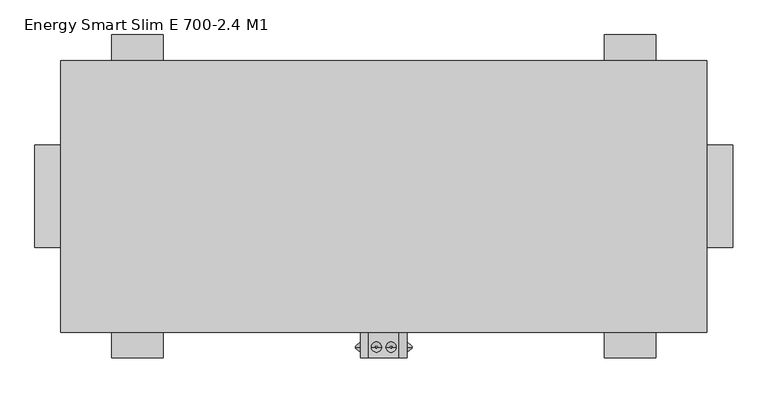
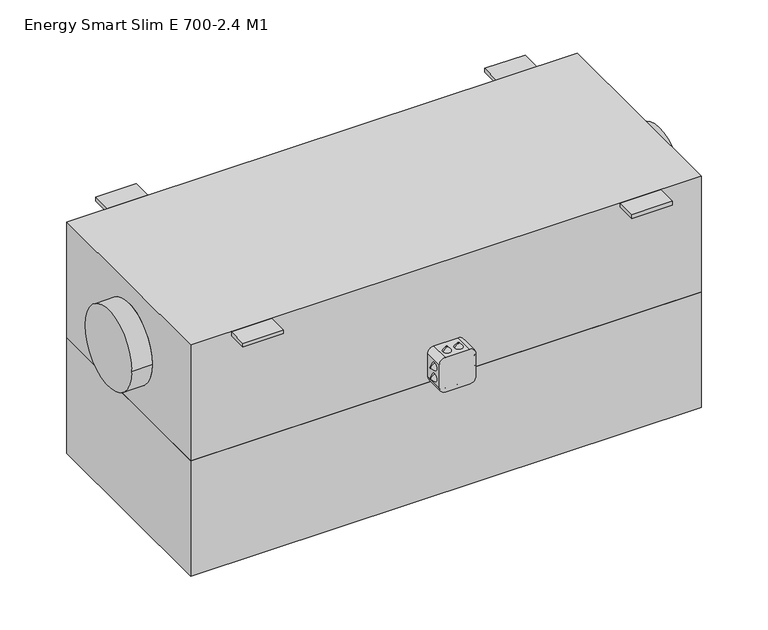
"""IFC4 building model written with IfcOpenShell, lengths in millimetres: proxy geometry, ADSK_КПВУ_ENERGY SMART SLIM E_круглая : Energy Smart Slim E 700-2.4 M1."""

import ifcopenshell
import ifcopenshell.guid

model = None  # the IFC model being written
_history = None  # IfcOwnerHistory: only IFC2X3 demands one
_inside = {}  # id of a spatial element -> (the spatial element, [elements in it])
_under = {}  # id of a project, library or spatial element -> (it, [spatial elements below it])
_declared = {}  # id of a project -> (the project, [libraries it declares])
_typed = {}  # id of a type object -> (the type object, [elements of that type])
_made_of = {}  # id of a material, layer set ... -> (it, [elements and type objects made of it])


def new_model(schema):
    """Start an empty IFC model of exactly this schema.

    Asked for "IFC4X3", IfcOpenShell would pick the latest addendum, in which some entities
    have other attributes; the version numbers below select the first issue.
    IFC2X3 requires an IfcOwnerHistory on every rooted entity: one is made here for all.
    """
    global model, _history
    if schema == "IFC4X3":
        model = ifcopenshell.file(schema_version=(4, 3, 0, 0))
    else:
        model = ifcopenshell.file(schema=schema)
    _inside.clear()
    _under.clear()
    _declared.clear()
    _typed.clear()
    _made_of.clear()
    _history = None
    if model.schema == "IFC2X3":
        org = make("IfcOrganization", Name="unknown")
        user = make(
            "IfcPersonAndOrganization",
            ThePerson=make("IfcPerson", FamilyName="unknown"),
            TheOrganization=org,
        )
        app = make(
            "IfcApplication",
            ApplicationDeveloper=org,
            Version="unknown",
            ApplicationFullName="unknown",
            ApplicationIdentifier="unknown",
        )
        _history = make(
            "IfcOwnerHistory",
            OwningUser=user,
            OwningApplication=app,
            ChangeAction="ADDED",
            CreationDate=0,
        )
    return model


def make(cls, **values):
    """One entity of the class cls with the attributes given. An attribute that is None is left unset."""
    return model.create_entity(
        cls, **{name: value for name, value in values.items() if value is not None}
    )


def rooted(cls, **values):
    """An entity with a GlobalId (a new one), such as an element, a storey or a relation."""
    return make(cls, GlobalId=ifcopenshell.guid.new(), OwnerHistory=_history, **values)


def si_unit(unit_type, name, prefix=None):
    """IfcSIUnit, for example si_unit("LENGTHUNIT", "METRE", prefix="MILLI")."""
    return make("IfcSIUnit", UnitType=unit_type, Prefix=prefix, Name=name)


def assignment(units):
    """IfcUnitAssignment: the units of a project."""
    return None if units is None else make("IfcUnitAssignment", Units=units)


def point(xyz):
    """IfcCartesianPoint."""
    return None if xyz is None else make("IfcCartesianPoint", Coordinates=xyz)


def direction(xyz):
    """IfcDirection."""
    return None if xyz is None else make("IfcDirection", DirectionRatios=xyz)


def frame(location, z_axis=None, x_axis=None):
    """IfcAxis2Placement3D, a coordinate frame: its origin and axes. An axis left out is left unset."""
    return make(
        "IfcAxis2Placement3D",
        Location=point(location),
        Axis=direction(z_axis),
        RefDirection=direction(x_axis),
    )


def frame_2d(location, x_axis=None):
    """IfcAxis2Placement2D, a coordinate frame in the plane: its origin and x axis."""
    return make(
        "IfcAxis2Placement2D", Location=point(location), RefDirection=direction(x_axis)
    )


def origin():
    """The frame at (0, 0, 0) with its axes left unset."""
    return frame((0.0, 0.0, 0.0))


def place(relative_to, where):
    """IfcLocalPlacement: puts the frame where relative to a parent placement (None: the world)."""
    return make(
        "IfcLocalPlacement", PlacementRelTo=relative_to, RelativePlacement=where
    )


def context(
    kind, dimensions, precision=None, world=None, true_north=None, identifier=None
):
    """IfcGeometricRepresentationContext, for example the 3D "Model" context."""
    return make(
        "IfcGeometricRepresentationContext",
        ContextIdentifier=identifier,
        ContextType=kind,
        CoordinateSpaceDimension=dimensions,
        Precision=precision,
        WorldCoordinateSystem=world,
        TrueNorth=true_north,
    )


def project(units=None, contexts=None):
    """IfcProject with its units and contexts."""
    return rooted(
        "IfcProject",
        Name="project",
        RepresentationContexts=contexts,
        UnitsInContext=assignment(units),
    )


def spatial(cls, under=None, at=None, **own):
    """A site, building, storey or space (cls), placed at a placement, below another one or the project."""
    s = rooted(cls, ObjectPlacement=at, **own)
    if under is not None:
        _under.setdefault(under.id(), (under, []))[1].append(s)
    return s


def polyline(points):
    """IfcPolyline through the points."""
    return make("IfcPolyline", Points=[point(p) for p in points])


def circle_curve(where, radius):
    """IfcCircle in the frame where."""
    return make("IfcCircle", Position=where, Radius=radius)


def trimmed(basis, trim1, trim2, sense, master):
    """IfcTrimmedCurve: the piece of a basis curve between two trims."""
    return make(
        "IfcTrimmedCurve",
        BasisCurve=basis,
        Trim1=trim1,
        Trim2=trim2,
        SenseAgreement=sense,
        MasterRepresentation=master,
    )


def segment(curve, same_sense, transition):
    """IfcCompositeCurveSegment."""
    return make(
        "IfcCompositeCurveSegment",
        Transition=transition,
        SameSense=same_sense,
        ParentCurve=curve,
    )


def composite_curve(segments, self_intersect=None):
    """IfcCompositeCurve: segments joined end to end."""
    return make("IfcCompositeCurve", Segments=segments, SelfIntersect=self_intersect)


def outline(outer, holes=None, kind="AREA"):
    """IfcArbitraryClosedProfileDef: a profile drawn as a closed curve; with holes, ...WithVoids."""
    if holes is None:
        return make("IfcArbitraryClosedProfileDef", ProfileType=kind, OuterCurve=outer)
    return make(
        "IfcArbitraryProfileDefWithVoids",
        ProfileType=kind,
        OuterCurve=outer,
        InnerCurves=holes,
    )


def extrude(swept, where, along, depth):
    """IfcExtrudedAreaSolid: the profile swept, set in the frame where, extruded along a direction by depth."""
    return make(
        "IfcExtrudedAreaSolid",
        SweptArea=swept,
        Position=where,
        ExtrudedDirection=direction(along),
        Depth=depth,
    )


def shape(context_of_items, identifier, shape_type, items):
    """IfcShapeRepresentation: the items that make up one representation, for example the "Body"."""
    return make(
        "IfcShapeRepresentation",
        ContextOfItems=context_of_items,
        RepresentationIdentifier=identifier,
        RepresentationType=shape_type,
        Items=items,
    )


def source(mapping_origin, context_of_items, identifier, shape_type, items):
    """IfcRepresentationMap: a shape defined once, which mapped items show again and again."""
    return make(
        "IfcRepresentationMap",
        MappingOrigin=mapping_origin,
        MappedRepresentation=shape(context_of_items, identifier, shape_type, items),
    )


def transform(
    local_origin,
    x_axis=None,
    y_axis=None,
    z_axis=None,
    scale=None,
    scale2=None,
    scale3=None,
    uniform=True,
):
    """IfcCartesianTransformationOperator3D, or its non-uniform kind. x_axis, y_axis, z_axis: its Axis1, 2, 3."""
    if uniform:
        return make(
            "IfcCartesianTransformationOperator3D",
            Axis1=direction(x_axis),
            Axis2=direction(y_axis),
            LocalOrigin=point(local_origin),
            Scale=scale,
            Axis3=direction(z_axis),
        )
    return make(
        "IfcCartesianTransformationOperator3DnonUniform",
        Axis1=direction(x_axis),
        Axis2=direction(y_axis),
        LocalOrigin=point(local_origin),
        Scale=scale,
        Axis3=direction(z_axis),
        Scale2=scale2,
        Scale3=scale3,
    )


def mapped(mapping_source, mapping_target):
    """IfcMappedItem: shows the shape of a source again, moved by a transform."""
    return make(
        "IfcMappedItem", MappingSource=mapping_source, MappingTarget=mapping_target
    )


def made_of(thing, what):
    """Note that an element or type object is made of a material, layer set ...; save() writes the relation."""
    if what is not None:
        _made_of.setdefault(what.id(), (what, []))[1].append(thing)
    return thing


def element(
    cls,
    number,
    at=None,
    inside=None,
    cuts=None,
    type_object=None,
    material=None,
    context=None,
    identifier="Body",
    shape_type=None,
    held_by="IfcProductDefinitionShape",
    body=None,
    shapes=None,
    **own,
):
    """One element of the class cls, such as IfcWall. Its Tag is "e" and its number.

    at: its placement. inside: the storey or other place that contains it. cuts: it is an
    opening in that element (IfcRelVoidsElement). A single representation is given by context,
    identifier, shape_type and body (its items); several are given by shapes. held_by: the class
    of the entity that holds the representations. save() writes the other relations.
    """
    e = rooted(cls, Tag="e%d" % number, ObjectPlacement=at, **own)
    if body is not None:
        shapes = [shape(context, identifier, shape_type, body)]
    if shapes is not None:
        e.Representation = make(held_by, Representations=shapes)
    if inside is not None:
        _inside.setdefault(inside.id(), (inside, []))[1].append(e)
    if cuts is not None:
        rooted(
            "IfcRelVoidsElement", RelatingBuildingElement=cuts, RelatedOpeningElement=e
        )
    if type_object is not None:
        _typed.setdefault(type_object.id(), (type_object, []))[1].append(e)
    return made_of(e, material)


def aggregate(whole, parts):
    """IfcRelAggregates: a whole, such as a stair, and the parts it consists of."""
    return rooted("IfcRelAggregates", RelatingObject=whole, RelatedObjects=parts)


def save(model, path):
    """Write the relations noted so far, then the file.

    IfcRelAggregates (storeys below a building ...), IfcRelContainedInSpatialStructure (elements
    in a storey), IfcRelDefinesByType, IfcRelAssociatesMaterial and IfcRelDeclares: one each for
    every whole, place, type object, material and project.
    """
    for whole, parts in _under.values():
        aggregate(whole, parts)
    for where, things in _inside.values():
        rooted(
            "IfcRelContainedInSpatialStructure",
            RelatedElements=things,
            RelatingStructure=where,
        )
    for kind, things in _typed.values():
        rooted("IfcRelDefinesByType", RelatedObjects=things, RelatingType=kind)
    for what, things in _made_of.values():
        rooted("IfcRelAssociatesMaterial", RelatedObjects=things, RelatingMaterial=what)
    for by, libraries in _declared.values():
        rooted("IfcRelDeclares", RelatingContext=by, RelatedDefinitions=libraries)
    model.write(path)


def plane_surface(at):
    """IfcPlane: the flat surface through the origin of the frame at, square to its z axis."""
    return make("IfcPlane", Position=at)


def cylinder_surface(at, radius):
    """IfcCylindricalSurface: all points at the distance radius from the z axis of the frame at."""
    return make("IfcCylindricalSurface", Position=at, Radius=radius)


def revolved_surface(curve, axis_point, axis_direction):
    """IfcSurfaceOfRevolution: the curve turned about the line through axis_point along axis_direction."""
    return make(
        "IfcSurfaceOfRevolution",
        SweptCurve=make("IfcArbitraryOpenProfileDef", ProfileType="CURVE", Curve=curve),
        AxisPosition=make("IfcAxis1Placement", Location=point(axis_point), Axis=direction(axis_direction)),
    )


def advanced_brep(points, edges, surfaces, faces):
    """IfcAdvancedBrep: a solid bounded by faces that lie on surfaces and meet in shared edges.

    An edge is (start, end): straight between two places in points (the first is 0);
    or (start, end, curve); or (start, end, curve, False) where it runs against its curve.
    A face is (place in surfaces, loops), or (place, loops, False) where it looks against
    its surface's normal. A loop lists edges by number (the first is 1), with a minus sign
    where the edge is run from its end to its start. The first loop is the outer one.
    """
    corners = [point(p) for p in points]
    vertices = [make("IfcVertexPoint", VertexGeometry=c) for c in corners]
    made = []
    for start, end, *more in edges:
        made.append(
            make(
                "IfcEdgeCurve",
                EdgeStart=vertices[start],
                EdgeEnd=vertices[end],
                EdgeGeometry=more[0] if more else make("IfcPolyline", Points=[corners[start], corners[end]]),
                SameSense=more[1] if len(more) > 1 else True,
            )
        )
    hull = []
    for where, loops, *sense in faces:
        bounds = []
        for j, loop in enumerate(loops):
            ring = [make("IfcOrientedEdge", EdgeElement=made[abs(k) - 1], Orientation=k > 0) for k in loop]
            bounds.append(
                make(
                    "IfcFaceOuterBound" if j == 0 else "IfcFaceBound",
                    Bound=make("IfcEdgeLoop", EdgeList=ring),
                    Orientation=True,
                )
            )
        hull.append(make("IfcAdvancedFace", Bounds=bounds, FaceSurface=surfaces[where], SameSense=sense[0] if sense else True))
    return make("IfcAdvancedBrep", Outer=make("IfcClosedShell", CfsFaces=hull))


def energy_smart_slim_e_700_2_4_m1_97cd10b6(model_context):
    return source(origin(), model_context, "Body", "SolidModel", [
        advanced_brep(
        [(211.0, -293.9311792, -122.7092609), (211.0, -293.9311792, -118.7092609), (221.0, -293.9311792, -130.7092609), (221.0, -293.9311792, -110.7092609)],
        [
            (0, 1, circle_curve(frame((211.0, -293.9311792, -120.7092609), z_axis=(-1.0, 0.0, 0.0), x_axis=(0.0, 0.0, -1.0)), 2.0)),
            (1, 0, circle_curve(frame((211.0, -293.9311792, -120.7092609), z_axis=(-1.0, 0.0, 0.0), x_axis=(0.0, 0.0, 1.0)), 2.0)),
            (2, 3, circle_curve(frame((221.0, -293.9311792, -120.7092609), z_axis=(1.0, 0.0, 0.0), x_axis=(0.0, 0.0, 1.0)), 10.0)),
            (3, 2, circle_curve(frame((221.0, -293.9311792, -120.7092609), z_axis=(1.0, 0.0, 0.0), x_axis=(0.0, 0.0, -1.0)), 10.0)),
            (2, 0),
            (1, 3),
        ],
        [
            plane_surface(frame((211.0, -293.9311792, -120.7092609), z_axis=(-1.0, 0.0, 0.0), x_axis=(0.0, -1.0, 0.0))),
            plane_surface(frame((221.0, -293.9311792, -120.7092609), z_axis=(1.0, 0.0, 0.0), x_axis=(0.0, -1.0, 0.0))),
            revolved_surface(polyline([(211.0, -293.9311792, -118.7092609), (221.0, -293.9311792, -110.7092609)]), (208.5, -293.9311792, -120.7092609), (1.0, 0.0, 0.0)),
            revolved_surface(polyline([(211.0, -293.9311792, -122.7092609), (221.0, -293.9311792, -130.7092609)]), (208.5, -293.9311792, -120.7092609), (1.0, 0.0, 0.0)),
        ],
        [
            (0, [[1, 2]]),
            (1, [[3, 4]]),
            (2, [[-3, 5, -2, 6]]),
            (3, [[-4, -6, -1, -5]]),
        ],
    ),
        advanced_brep(
        [(211.0, -293.9311792, -90.0531164), (211.0, -293.9311792, -94.0531164), (221.0, -293.9311792, -82.0531164), (221.0, -293.9311792, -102.0531164)],
        [
            (0, 1, circle_curve(frame((211.0, -293.9311792, -92.0531164), z_axis=(-1.0, 0.0, 0.0), x_axis=(0.0, 0.0, 1.0)), 2.0)),
            (1, 0, circle_curve(frame((211.0, -293.9311792, -92.0531164), z_axis=(-1.0, 0.0, 0.0), x_axis=(0.0, 0.0, -1.0)), 2.0)),
            (2, 3, circle_curve(frame((221.0, -293.9311792, -92.0531164), z_axis=(1.0, 0.0, 0.0), x_axis=(0.0, 0.0, -1.0)), 10.0)),
            (3, 2, circle_curve(frame((221.0, -293.9311792, -92.0531164), z_axis=(1.0, 0.0, 0.0), x_axis=(0.0, 0.0, 1.0)), 10.0)),
            (3, 1),
            (0, 2),
        ],
        [
            plane_surface(frame((211.0, -293.9311792, -92.0531164), z_axis=(-1.0, 0.0, 0.0), x_axis=(0.0, 1.0, 0.0))),
            plane_surface(frame((221.0, -293.9311792, -92.0531164), z_axis=(1.0, 0.0, 0.0), x_axis=(0.0, 1.0, 0.0))),
            revolved_surface(polyline([(211.0, -293.9311792, -90.0531164), (221.0, -293.9311792, -82.0531164)]), (208.5, -293.9311792, -92.0531164), (1.0, 0.0, 0.0)),
            revolved_surface(polyline([(211.0, -293.9311792, -94.0531164), (221.0, -293.9311792, -102.0531164)]), (208.5, -293.9311792, -92.0531164), (1.0, 0.0, 0.0)),
        ],
        [
            (0, [[1, 2]]),
            (1, [[3, 4]]),
            (2, [[-4, 5, -1, 6]]),
            (3, [[-3, -6, -2, -5]]),
        ],
    ),
        advanced_brep(
        [(321.0, -293.9311792, -122.7092609), (321.0, -293.9311792, -118.7092609), (311.0, -293.9311792, -130.7092609), (311.0, -293.9311792, -110.7092609)],
        [
            (0, 1, circle_curve(frame((321.0, -293.9311792, -120.7092609), z_axis=(1.0, 0.0, 0.0), x_axis=(0.0, 0.0, -1.0)), 2.0)),
            (1, 0, circle_curve(frame((321.0, -293.9311792, -120.7092609), z_axis=(1.0, 0.0, 0.0), x_axis=(0.0, 0.0, 1.0)), 2.0)),
            (2, 3, circle_curve(frame((311.0, -293.9311792, -120.7092609), z_axis=(-1.0, 0.0, 0.0), x_axis=(0.0, 0.0, 1.0)), 10.0)),
            (3, 2, circle_curve(frame((311.0, -293.9311792, -120.7092609), z_axis=(-1.0, 0.0, 0.0), x_axis=(0.0, 0.0, -1.0)), 10.0)),
            (3, 1),
            (0, 2),
        ],
        [
            plane_surface(frame((321.0, -293.9311792, -120.7092609), z_axis=(1.0, 0.0, 0.0), x_axis=(0.0, 1.0, 0.0))),
            plane_surface(frame((311.0, -293.9311792, -120.7092609), z_axis=(-1.0, 0.0, 0.0), x_axis=(0.0, 1.0, 0.0))),
            revolved_surface(polyline([(321.0, -293.9311792, -122.7092609), (311.0, -293.9311792, -130.7092609)]), (323.5, -293.9311792, -120.7092609), (-1.0, 0.0, 0.0)),
            revolved_surface(polyline([(321.0, -293.9311792, -118.7092609), (311.0, -293.9311792, -110.7092609)]), (323.5, -293.9311792, -120.7092609), (-1.0, 0.0, 0.0)),
        ],
        [
            (0, [[1, 2]]),
            (1, [[3, 4]]),
            (2, [[-4, 5, -1, 6]]),
            (3, [[-3, -6, -2, -5]]),
        ],
    ),
        advanced_brep(
        [(321.0, -293.9311792, -90.0531164), (321.0, -293.9311792, -94.0531164), (311.0, -293.9311792, -82.0531164), (311.0, -293.9311792, -102.0531164)],
        [
            (0, 1, circle_curve(frame((321.0, -293.9311792, -92.0531164), z_axis=(1.0, 0.0, 0.0), x_axis=(0.0, 0.0, 1.0)), 2.0)),
            (1, 0, circle_curve(frame((321.0, -293.9311792, -92.0531164), z_axis=(1.0, 0.0, 0.0), x_axis=(0.0, 0.0, -1.0)), 2.0)),
            (2, 3, circle_curve(frame((311.0, -293.9311792, -92.0531164), z_axis=(-1.0, 0.0, 0.0), x_axis=(0.0, 0.0, -1.0)), 10.0)),
            (3, 2, circle_curve(frame((311.0, -293.9311792, -92.0531164), z_axis=(-1.0, 0.0, 0.0), x_axis=(0.0, 0.0, 1.0)), 10.0)),
            (2, 0),
            (1, 3),
        ],
        [
            plane_surface(frame((321.0, -293.9311792, -92.0531164), z_axis=(1.0, 0.0, 0.0), x_axis=(0.0, -1.0, 0.0))),
            plane_surface(frame((311.0, -293.9311792, -92.0531164), z_axis=(-1.0, 0.0, 0.0), x_axis=(0.0, -1.0, 0.0))),
            revolved_surface(polyline([(321.0, -293.9311792, -94.0531164), (311.0, -293.9311792, -102.0531164)]), (323.5, -293.9311792, -92.0531164), (-1.0, 0.0, 0.0)),
            revolved_surface(polyline([(321.0, -293.9311792, -90.0531164), (311.0, -293.9311792, -82.0531164)]), (323.5, -293.9311792, -92.0531164), (-1.0, 0.0, 0.0)),
        ],
        [
            (0, [[1, 2]]),
            (1, [[3, 4]]),
            (2, [[-3, 5, -2, 6]]),
            (3, [[-4, -6, -1, -5]]),
        ],
    ),
        advanced_brep(
        [(249.6719278, -293.9311792, -161.0), (253.6719278, -293.9311792, -161.0), (241.6719278, -293.9311792, -151.0), (261.6719278, -293.9311792, -151.0)],
        [
            (0, 1, circle_curve(frame((251.6719278, -293.9311792, -161.0), z_axis=(0.0, 0.0, -1.0), x_axis=(-1.0, 0.0, 0.0)), 2.0)),
            (1, 0, circle_curve(frame((251.6719278, -293.9311792, -161.0), z_axis=(0.0, 0.0, -1.0), x_axis=(1.0, 0.0, 0.0)), 2.0)),
            (2, 3, circle_curve(frame((251.6719278, -293.9311792, -151.0), z_axis=(0.0, 0.0, 1.0), x_axis=(1.0, 0.0, 0.0)), 10.0)),
            (3, 2, circle_curve(frame((251.6719278, -293.9311792, -151.0), z_axis=(0.0, 0.0, 1.0), x_axis=(-1.0, 0.0, 0.0)), 10.0)),
            (3, 1),
            (0, 2),
        ],
        [
            plane_surface(frame((251.6719278, -293.9311792, -161.0), z_axis=(0.0, 0.0, -1.0), x_axis=(0.0, 1.0, 0.0))),
            plane_surface(frame((251.6719278, -293.9311792, -151.0), z_axis=(0.0, 0.0, 1.0), x_axis=(0.0, 1.0, 0.0))),
            revolved_surface(polyline([(249.6719278, -293.9311792, -161.0), (241.6719278, -293.9311792, -151.0)]), (251.6719278, -293.9311792, -163.5), (0.0, 0.0, 1.0)),
            revolved_surface(polyline([(253.6719278, -293.9311792, -161.0), (261.6719278, -293.9311792, -151.0)]), (251.6719278, -293.9311792, -163.5), (0.0, 0.0, 1.0)),
        ],
        [
            (0, [[1, 2]]),
            (1, [[3, 4]]),
            (2, [[-4, 5, -1, 6]]),
            (3, [[-3, -6, -2, -5]]),
        ],
    ),
        advanced_brep(
        [(282.3280722, -293.9311792, -161.0), (278.3280722, -293.9311792, -161.0), (290.3280722, -293.9311792, -151.0), (270.3280722, -293.9311792, -151.0)],
        [
            (0, 1, circle_curve(frame((280.3280722, -293.9311792, -161.0), z_axis=(0.0, 0.0, -1.0), x_axis=(1.0, 0.0, 0.0)), 2.0)),
            (1, 0, circle_curve(frame((280.3280722, -293.9311792, -161.0), z_axis=(0.0, 0.0, -1.0), x_axis=(-1.0, 0.0, 0.0)), 2.0)),
            (2, 3, circle_curve(frame((280.3280722, -293.9311792, -151.0), z_axis=(0.0, 0.0, 1.0), x_axis=(-1.0, 0.0, 0.0)), 10.0)),
            (3, 2, circle_curve(frame((280.3280722, -293.9311792, -151.0), z_axis=(0.0, 0.0, 1.0), x_axis=(1.0, 0.0, 0.0)), 10.0)),
            (2, 0),
            (1, 3),
        ],
        [
            plane_surface(frame((280.3280722, -293.9311792, -161.0), z_axis=(0.0, 0.0, -1.0), x_axis=(0.0, -1.0, 0.0))),
            plane_surface(frame((280.3280722, -293.9311792, -151.0), z_axis=(0.0, 0.0, 1.0), x_axis=(0.0, -1.0, 0.0))),
            revolved_surface(polyline([(278.3280722, -293.9311792, -161.0), (270.3280722, -293.9311792, -151.0)]), (280.3280722, -293.9311792, -163.5), (0.0, 0.0, 1.0)),
            revolved_surface(polyline([(282.3280722, -293.9311792, -161.0), (290.3280722, -293.9311792, -151.0)]), (280.3280722, -293.9311792, -163.5), (0.0, 0.0, 1.0)),
        ],
        [
            (0, [[1, 2]]),
            (1, [[3, 4]]),
            (2, [[-3, 5, -2, 6]]),
            (3, [[-4, -6, -1, -5]]),
        ],
    ),
        advanced_brep(
        [(249.6719278, -293.9311792, -51.0), (253.6719278, -293.9311792, -51.0), (241.6719278, -293.9311792, -61.0), (261.6719278, -293.9311792, -61.0)],
        [
            (0, 1, circle_curve(frame((251.6719278, -293.9311792, -51.0), z_axis=(0.0, 0.0, 1.0), x_axis=(-1.0, 0.0, 0.0)), 2.0)),
            (1, 0, circle_curve(frame((251.6719278, -293.9311792, -51.0), z_axis=(0.0, 0.0, 1.0), x_axis=(1.0, 0.0, 0.0)), 2.0)),
            (2, 3, circle_curve(frame((251.6719278, -293.9311792, -61.0), z_axis=(0.0, 0.0, -1.0), x_axis=(1.0, 0.0, 0.0)), 10.0)),
            (3, 2, circle_curve(frame((251.6719278, -293.9311792, -61.0), z_axis=(0.0, 0.0, -1.0), x_axis=(-1.0, 0.0, 0.0)), 10.0)),
            (2, 0),
            (1, 3),
        ],
        [
            plane_surface(frame((251.6719278, -293.9311792, -51.0), z_axis=(0.0, 0.0, 1.0), x_axis=(0.0, -1.0, 0.0))),
            plane_surface(frame((251.6719278, -293.9311792, -61.0), z_axis=(0.0, 0.0, -1.0), x_axis=(0.0, -1.0, 0.0))),
            revolved_surface(polyline([(253.6719278, -293.9311792, -51.0), (261.6719278, -293.9311792, -61.0)]), (251.6719278, -293.9311792, -48.5), (0.0, 0.0, -1.0)),
            revolved_surface(polyline([(249.6719278, -293.9311792, -51.0), (241.6719278, -293.9311792, -61.0)]), (251.6719278, -293.9311792, -48.5), (0.0, 0.0, -1.0)),
        ],
        [
            (0, [[1, 2]]),
            (1, [[3, 4]]),
            (2, [[-3, 5, -2, 6]]),
            (3, [[-4, -6, -1, -5]]),
        ],
    ),
        advanced_brep(
        [(282.3280722, -293.9311792, -51.0), (278.3280722, -293.9311792, -51.0), (290.3280722, -293.9311792, -61.0), (270.3280722, -293.9311792, -61.0)],
        [
            (0, 1, circle_curve(frame((280.3280722, -293.9311792, -51.0), z_axis=(0.0, 0.0, 1.0), x_axis=(1.0, 0.0, 0.0)), 2.0)),
            (1, 0, circle_curve(frame((280.3280722, -293.9311792, -51.0), z_axis=(0.0, 0.0, 1.0), x_axis=(-1.0, 0.0, 0.0)), 2.0)),
            (2, 3, circle_curve(frame((280.3280722, -293.9311792, -61.0), z_axis=(0.0, 0.0, -1.0), x_axis=(-1.0, 0.0, 0.0)), 10.0)),
            (3, 2, circle_curve(frame((280.3280722, -293.9311792, -61.0), z_axis=(0.0, 0.0, -1.0), x_axis=(1.0, 0.0, 0.0)), 10.0)),
            (3, 1),
            (0, 2),
        ],
        [
            plane_surface(frame((280.3280722, -293.9311792, -51.0), z_axis=(0.0, 0.0, 1.0), x_axis=(0.0, 1.0, 0.0))),
            plane_surface(frame((280.3280722, -293.9311792, -61.0), z_axis=(0.0, 0.0, -1.0), x_axis=(0.0, 1.0, 0.0))),
            revolved_surface(polyline([(282.3280722, -293.9311792, -51.0), (290.3280722, -293.9311792, -61.0)]), (280.3280722, -293.9311792, -48.5), (0.0, 0.0, -1.0)),
            revolved_surface(polyline([(278.3280722, -293.9311792, -51.0), (270.3280722, -293.9311792, -61.0)]), (280.3280722, -293.9311792, -48.5), (0.0, 0.0, -1.0)),
        ],
        [
            (0, [[1, 2]]),
            (1, [[3, 4]]),
            (2, [[-4, 5, -1, 6]]),
            (3, [[-3, -6, -2, -5]]),
        ],
    ),
        extrude(outline(composite_curve([segment(polyline([(-151.0, 236.0), (-151.0, 296.0)]), True, "CONTINUOUS"), segment(trimmed(circle_curve(frame_2d((-136.0, 296.0)), 15.0), [point((-151.0, 296.0))], [point((-136.0, 311.0))], False, "CARTESIAN"), True, "CONTINUOUS"), segment(polyline([(-136.0, 311.0), (-76.0, 311.0)]), True, "CONTINUOUS"), segment(trimmed(circle_curve(frame_2d((-76.0, 296.0)), 15.0), [point((-76.0, 311.0))], [point((-61.0, 296.0))], False, "CARTESIAN"), True, "CONTINUOUS"), segment(polyline([(-61.0, 296.0), (-61.0, 236.0)]), True, "CONTINUOUS"), segment(trimmed(circle_curve(frame_2d((-76.0, 236.0)), 15.0), [point((-61.0, 236.0))], [point((-76.0, 221.0))], False, "CARTESIAN"), True, "CONTINUOUS"), segment(polyline([(-76.0, 221.0), (-136.0, 221.0)]), True, "CONTINUOUS"), segment(trimmed(circle_curve(frame_2d((-136.0, 236.0)), 15.0), [point((-136.0, 221.0))], [point((-151.0, 236.0))], False, "CARTESIAN"), True, "CONTINUOUS")], self_intersect=False)), frame((0.0, -315.0, 0.0), z_axis=(0.0, 1.0, 0.0), x_axis=(0.0, 0.0, 1.0)), (0.0, 0.0, 1.0), 50.0),
        advanced_brep(
        [(896.0, -265.0, 151.0), (896.0, -265.0, -151.0), (896.0, 265.0, -151.0), (896.0, 265.0, 151.0), (896.0, 100.0, 0.0), (896.0, -100.0, 0.0), (-364.0, -265.0, 151.0), (-364.0, 265.0, 151.0), (-364.0, 265.0, -151.0), (-364.0, -265.0, -151.0), (-364.0, 100.0, 0.0), (-364.0, -100.0, 0.0), (-414.0, -100.0, 0.0), (-414.0, 100.0, 0.0), (946.0, -100.0, 0.0), (946.0, 100.0, 0.0)],
        [
            (0, 1),
            (1, 2),
            (2, 3),
            (3, 0),
            (4, 5, circle_curve(frame((896.0, 0.0, 0.0), z_axis=(-1.0, 0.0, 0.0), x_axis=(0.0, 1.0, 0.0)), 100.0)),
            (5, 4, circle_curve(frame((896.0, 0.0, 0.0), z_axis=(-1.0, 0.0, 0.0), x_axis=(0.0, 1.0, 0.0)), 100.0)),
            (6, 7),
            (7, 8),
            (8, 9),
            (9, 6),
            (10, 11, circle_curve(frame((-364.0, 0.0, 0.0), z_axis=(1.0, 0.0, 0.0), x_axis=(0.0, 1.0, 0.0)), 100.0)),
            (11, 10, circle_curve(frame((-364.0, 0.0, 0.0), z_axis=(1.0, 0.0, 0.0), x_axis=(0.0, 1.0, 0.0)), 100.0)),
            (12, 13, circle_curve(frame((-414.0, 0.0, 0.0), z_axis=(-1.0, 0.0, 0.0), x_axis=(0.0, 1.0, 0.0)), 100.0)),
            (13, 12, circle_curve(frame((-414.0, 0.0, 0.0), z_axis=(-1.0, 0.0, 0.0), x_axis=(0.0, 1.0, 0.0)), 100.0)),
            (0, 6),
            (9, 1),
            (8, 2),
            (7, 3),
            (12, 11),
            (10, 13),
            (14, 15, circle_curve(frame((946.0, 0.0, 0.0), z_axis=(1.0, 0.0, 0.0), x_axis=(0.0, 1.0, 0.0)), 100.0)),
            (15, 14, circle_curve(frame((946.0, 0.0, 0.0), z_axis=(1.0, 0.0, 0.0), x_axis=(0.0, 1.0, 0.0)), 100.0)),
            (14, 5),
            (4, 15),
        ],
        [
            plane_surface(frame((896.0, -265.0, 151.0), z_axis=(1.0, 0.0, 0.0), x_axis=(0.0, 0.0, -1.0))),
            plane_surface(frame((-364.0, -265.0, 151.0), z_axis=(-1.0, 0.0, 0.0), x_axis=(0.0, 0.0, 1.0))),
            plane_surface(frame((-414.0, 100.0, 0.0), z_axis=(-1.0, 0.0, 0.0), x_axis=(0.0, 0.0, -1.0))),
            plane_surface(frame((896.0, -265.0, 151.0), z_axis=(0.0, -1.0, 0.0), x_axis=(-1.0, 0.0, 0.0))),
            plane_surface(frame((896.0, -265.0, -151.0), z_axis=(0.0, 0.0, -1.0), x_axis=(-1.0, 0.0, 0.0))),
            plane_surface(frame((896.0, 265.0, -151.0), z_axis=(0.0, 1.0, 0.0), x_axis=(-1.0, 0.0, 0.0))),
            plane_surface(frame((896.0, 265.0, 151.0), z_axis=(0.0, 0.0, 1.0), x_axis=(-1.0, 0.0, 0.0))),
            cylinder_surface(frame((-414.0, 0.0, 0.0), z_axis=(1.0, 0.0, 0.0), x_axis=(0.0, 1.0, 0.0)), 100.0),
            plane_surface(frame((946.0, 100.0, 0.0), z_axis=(1.0, 0.0, 0.0), x_axis=(0.0, 0.0, 1.0))),
            cylinder_surface(frame((896.0, 0.0, 0.0), z_axis=(1.0, 0.0, 0.0), x_axis=(0.0, 1.0, 0.0)), 100.0),
        ],
        [
            (0, [[1, 2, 3, 4], [5, 6]]),
            (1, [[7, 8, 9, 10], [11, 12]]),
            (2, [[13, 14]]),
            (3, [[-1, 15, -10, 16]]),
            (4, [[-2, -16, -9, 17]]),
            (5, [[-3, -17, -8, 18]]),
            (6, [[-4, -18, -7, -15]]),
            (7, [[-13, 19, -11, 20]]),
            (7, [[-14, -20, -12, -19]]),
            (8, [[21, 22]]),
            (9, [[-21, 23, -5, 24]]),
            (9, [[-22, -24, -6, -23]]),
        ],
    ),
        extrude(outline(polyline([(-164.0, 315.0), (-164.0, 265.0), (-264.0, 265.0), (-264.0, 315.0), (-164.0, 315.0)])), frame((0.0, 0.0, 141.0), z_axis=(0.0, 0.0, 1.0), x_axis=(1.0, 0.0, 0.0)), (0.0, 0.0, 1.0), 10.0),
        extrude(outline(polyline([(696.0, 315.0), (796.0, 315.0), (796.0, 265.0), (696.0, 265.0), (696.0, 315.0)])), frame((0.0, 0.0, 141.0), z_axis=(0.0, 0.0, 1.0), x_axis=(1.0, 0.0, 0.0)), (0.0, 0.0, 1.0), 10.0),
        extrude(outline(polyline([(-164.0, -315.0), (-264.0, -315.0), (-264.0, -265.0), (-164.0, -265.0), (-164.0, -315.0)])), frame((0.0, 0.0, 141.0), z_axis=(0.0, 0.0, 1.0), x_axis=(1.0, 0.0, 0.0)), (0.0, 0.0, 1.0), 10.0),
        extrude(outline(polyline([(696.0, -315.0), (696.0, -265.0), (796.0, -265.0), (796.0, -315.0), (696.0, -315.0)])), frame((0.0, 0.0, 141.0), z_axis=(0.0, 0.0, 1.0), x_axis=(1.0, 0.0, 0.0)), (0.0, 0.0, 1.0), 10.0),
        extrude(outline(polyline([(896.0, 265.0), (896.0, -265.0), (-364.0, -265.0), (-364.0, 265.0), (896.0, 265.0)])), frame((0.0, 0.0, -453.0), z_axis=(0.0, 0.0, 1.0), x_axis=(1.0, 0.0, 0.0)), (0.0, 0.0, 1.0), 302.0),
    ])


if __name__ == "__main__":
    model = new_model("IFC4")
    model_context = context("Model", 3, world=origin())
    ifc_project = project(units=[si_unit("LENGTHUNIT", "METRE", prefix="MILLI")], contexts=[model_context])
    site = spatial("IfcSite", under=ifc_project)
    building = spatial("IfcBuilding", under=site)
    placement = place(None, origin())
    energy_smart_slim_e_700_2_4_m1_shape = energy_smart_slim_e_700_2_4_m1_97cd10b6(model_context)
    element("IfcBuildingElementProxy", 1, Name="ADSK_КПВУ_ENERGY SMART SLIM E_круглая : Energy Smart Slim E 700-2.4 M1", ObjectType="ADSK_КПВУ_ENERGY SMART SLIM E_круглая : Energy Smart Slim E 700-2.4 M1", at=placement, inside=building, context=model_context, shape_type="MappedRepresentation", body=[
        mapped(energy_smart_slim_e_700_2_4_m1_shape, transform((0.0, 0.0, 0.0), x_axis=(1.0, 0.0, 0.0), y_axis=(0.0, 1.0, 0.0), z_axis=(0.0, 0.0, 1.0))),
    ])
    save(model, "model.ifc")
